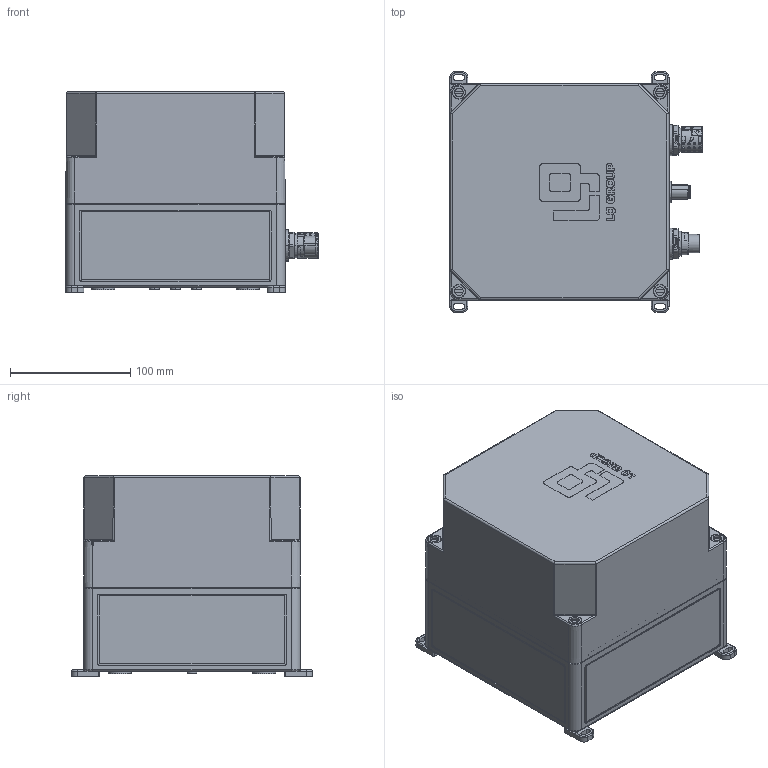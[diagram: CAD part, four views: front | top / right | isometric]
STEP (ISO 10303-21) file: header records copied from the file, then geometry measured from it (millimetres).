
FILE_DESCRIPTION (( 'STEP AP214' ), '1' );
FILE_NAME ('vereinfacht_1161898.STEP', '2020-02-25T16:59:10', ( '' ), ( '' ), 'SwSTEP 2.0', 'SolidWorks 2019', '' );
FILE_SCHEMA (( 'AUTOMOTIVE_DESIGN' ));
Length unit declared in the file: millimetre
Products named in the file (1): vereinfacht_1161898
Bounding box: 209.43 x 200 x 166.4 mm (x, y, z)
Surface area: 400517.7 mm2 (no closed solid volume)
Topology: 0 solids, 29 shells, 2465 faces, 6878 edges, 4570 vertices
Faces by surface type: plane 1206, cylinder 695, bspline 363, cone 110, torus 85, sphere 6
Entity records: 125825 total; most frequent: CARTESIAN_POINT 38160, ORIENTED_EDGE 12941, DIRECTION 11454, EDGE_CURVE 6853, VERTEX_POINT 4564, AXIS2_PLACEMENT_3D 3909, VECTOR 3636, LINE 3636
